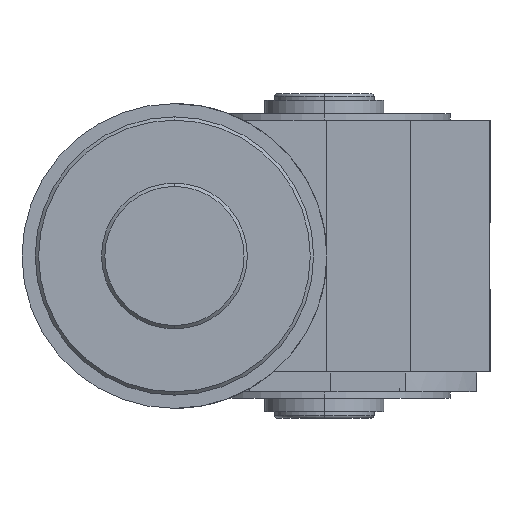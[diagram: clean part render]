
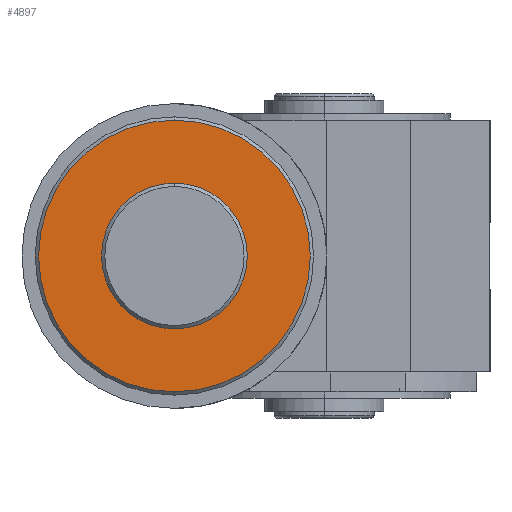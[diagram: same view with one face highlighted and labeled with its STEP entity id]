
A CAD part, left-side view. The second image highlights one B-rep face of the part: STEP entity #4897.
In plain terms, the highlighted planar face has unit normal (-1, 0, 0).
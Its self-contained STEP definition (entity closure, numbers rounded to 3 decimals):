
#30 = DIRECTION ( 'NONE',  ( -1., 0., 0. ) ) ;
#149 = AXIS2_PLACEMENT_3D ( 'NONE', #3740, #3950, #2675 ) ;
#230 = CIRCLE ( 'NONE', #7088, 20.5 ) ;
#418 = FACE_BOUND ( 'NONE', #11951, .T. ) ;
#1757 = VERTEX_POINT ( 'NONE', #10481 ) ;
#2675 = DIRECTION ( 'NONE',  ( 0., 0., 1. ) ) ;
#3179 = AXIS2_PLACEMENT_3D ( 'NONE', #13345, #11463, #10312 ) ;
#3740 = CARTESIAN_POINT ( 'NONE',  ( 2.5, 0., 0. ) ) ;
#3950 = DIRECTION ( 'NONE',  ( -1., 0., 0. ) ) ;
#4897 = ADVANCED_FACE ( 'NONE', ( #10234, #418 ), #5721, .F. ) ;
#4949 = CIRCLE ( 'NONE', #9993, 20.5 ) ;
#4995 = AXIS2_PLACEMENT_3D ( 'NONE', #7430, #5224, #12983 ) ;
#5224 = DIRECTION ( 'NONE',  ( -1., 0., 0. ) ) ;
#5517 = EDGE_CURVE ( 'NONE', #7360, #1757, #230, .T. ) ;
#5721 = PLANE ( 'NONE',  #3179 ) ;
#6625 = ORIENTED_EDGE ( 'NONE', *, *, #11423, .F. ) ;
#6829 = DIRECTION ( 'NONE',  ( 0., 0., -1. ) ) ;
#6868 = EDGE_LOOP ( 'NONE', ( #12912, #9307 ) ) ;
#7088 = AXIS2_PLACEMENT_3D ( 'NONE', #12322, #7843, #6829 ) ;
#7360 = VERTEX_POINT ( 'NONE', #11042 ) ;
#7430 = CARTESIAN_POINT ( 'NONE',  ( 2.5, 0., 0. ) ) ;
#7843 = DIRECTION ( 'NONE',  ( -1., 0., 0. ) ) ;
#7868 = VERTEX_POINT ( 'NONE', #8216 ) ;
#7967 = CIRCLE ( 'NONE', #4995, 11. ) ;
#8216 = CARTESIAN_POINT ( 'NONE',  ( 2.5, 0., -11. ) ) ;
#9307 = ORIENTED_EDGE ( 'NONE', *, *, #11253, .T. ) ;
#9315 = CIRCLE ( 'NONE', #149, 11. ) ;
#9993 = AXIS2_PLACEMENT_3D ( 'NONE', #11855, #30, #14091 ) ;
#10234 = FACE_OUTER_BOUND ( 'NONE', #6868, .T. ) ;
#10312 = DIRECTION ( 'NONE',  ( 0., 0., -1. ) ) ;
#10481 = CARTESIAN_POINT ( 'NONE',  ( 2.5, 0., 20.5 ) ) ;
#10571 = ORIENTED_EDGE ( 'NONE', *, *, #11985, .F. ) ;
#11042 = CARTESIAN_POINT ( 'NONE',  ( 2.5, 0., -20.5 ) ) ;
#11253 = EDGE_CURVE ( 'NONE', #1757, #7360, #4949, .T. ) ;
#11423 = EDGE_CURVE ( 'NONE', #11584, #7868, #9315, .T. ) ;
#11463 = DIRECTION ( 'NONE',  ( 1., 0., 0. ) ) ;
#11584 = VERTEX_POINT ( 'NONE', #14075 ) ;
#11855 = CARTESIAN_POINT ( 'NONE',  ( 2.5, 0., 0. ) ) ;
#11951 = EDGE_LOOP ( 'NONE', ( #6625, #10571 ) ) ;
#11985 = EDGE_CURVE ( 'NONE', #7868, #11584, #7967, .T. ) ;
#12322 = CARTESIAN_POINT ( 'NONE',  ( 2.5, 0., 0. ) ) ;
#12912 = ORIENTED_EDGE ( 'NONE', *, *, #5517, .T. ) ;
#12983 = DIRECTION ( 'NONE',  ( 0., 0., 1. ) ) ;
#13345 = CARTESIAN_POINT ( 'NONE',  ( 2.5, 11., 0. ) ) ;
#14075 = CARTESIAN_POINT ( 'NONE',  ( 2.5, 0., 11. ) ) ;
#14091 = DIRECTION ( 'NONE',  ( 0., 0., -1. ) ) ;
